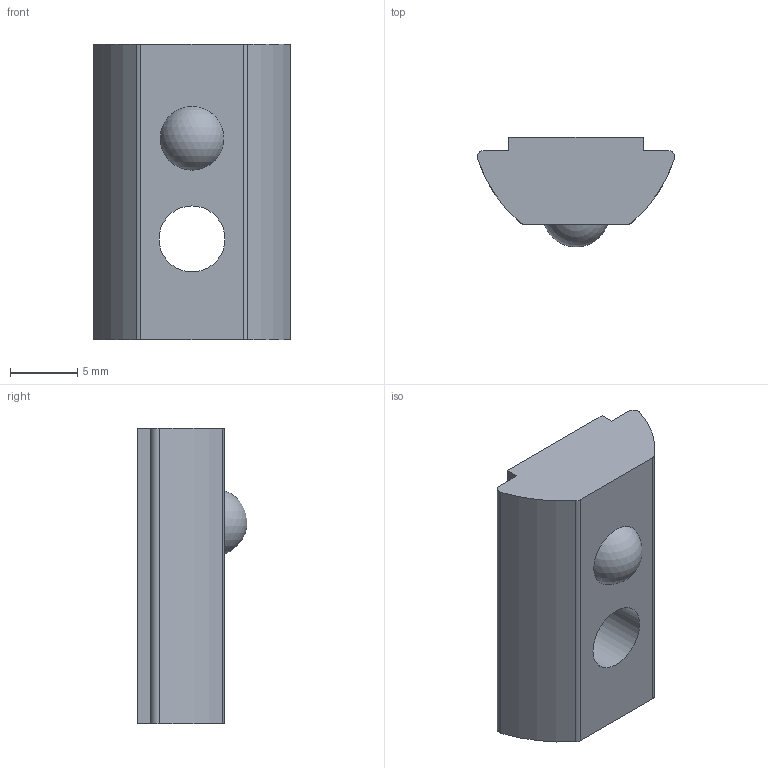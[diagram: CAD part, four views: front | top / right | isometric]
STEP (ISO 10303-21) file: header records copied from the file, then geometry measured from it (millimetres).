
FILE_DESCRIPTION((''),'2;1');
FILE_NAME('E:\catalogue and flyer\Profile catalogue 2015\Accessories JE info\Accessories-JE step file 31MAr16\JE-HRN8-10.stp','2016-04-07T08:55:39',('h029'),(''),'Autodesk Inventor 11','Autodesk Inventor 11','');
FILE_SCHEMA(('AUTOMOTIVE_DESIGN { 1 0 10303 214 1 1 1 1 }'));
Length unit declared in the file: millimetre
Products named in the file (1): JE-HRN8-10
Bounding box: 14.68 x 8.18 x 22 mm (x, y, z)
Volume: 1601.3 mm3; surface area: 1046.4 mm2
Topology: 1 solids, 1 shells, 17 faces, 43 edges, 29 vertices
Faces by surface type: plane 8, cylinder 6, sphere 1, cone 1, bspline 1
Entity records: 542 total; most frequent: CARTESIAN_POINT 103, DIRECTION 90, ORIENTED_EDGE 80, EDGE_CURVE 40, AXIS2_PLACEMENT_3D 33, VERTEX_POINT 28, VECTOR 24, LINE 24
